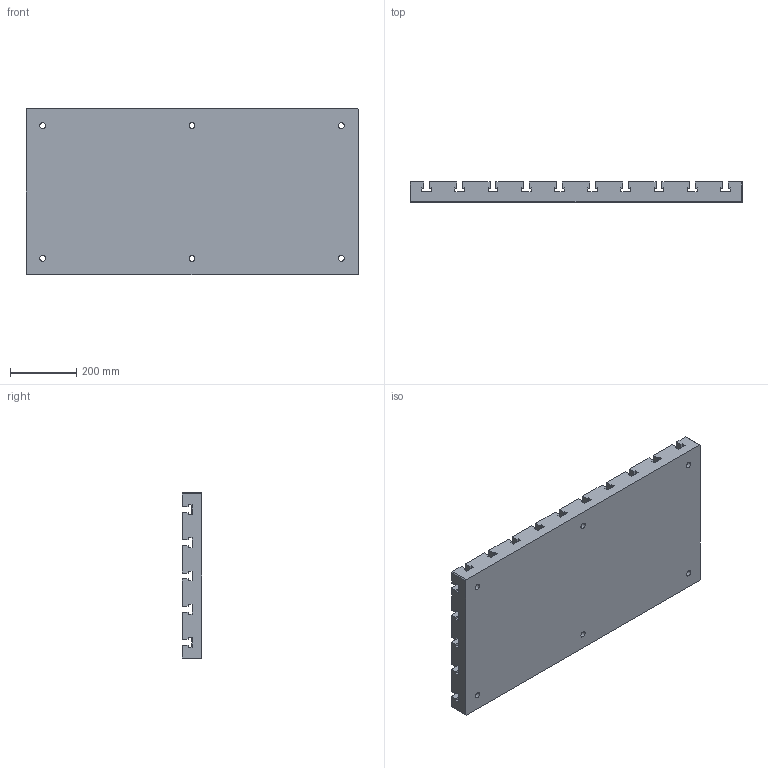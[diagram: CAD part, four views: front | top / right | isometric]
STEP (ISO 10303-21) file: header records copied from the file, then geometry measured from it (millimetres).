
FILE_DESCRIPTION((''),'2;1');
FILE_NAME('FG_WH_BASPL_RCT18NP005','2026-05-17T11:56:52',('Admin'),(''),'CREO PARAMETRIC BY PTC INC, 2025010','CREO PARAMETRIC BY PTC INC, 2025010','');
FILE_SCHEMA(('CONFIG_CONTROL_DESIGN'));
Length unit declared in the file: millimetre
Products named in the file (1): FG_WH_BASPL_RCT18NP005
Bounding box: 1000 x 60 x 500 mm (x, y, z)
Volume: 23920229.9 mm3; surface area: 1813309.5 mm2
Topology: 1 solids, 1 shells, 656 faces, 1728 edges, 1152 vertices
Faces by surface type: plane 612, cylinder 44
Entity records: 19962 total; most frequent: CARTESIAN_POINT 3536, ORIENTED_EDGE 3456, DIRECTION 3128, EDGE_CURVE 1728, VECTOR 1640, LINE 1640, VERTEX_POINT 1152, EDGE_LOOP 746
